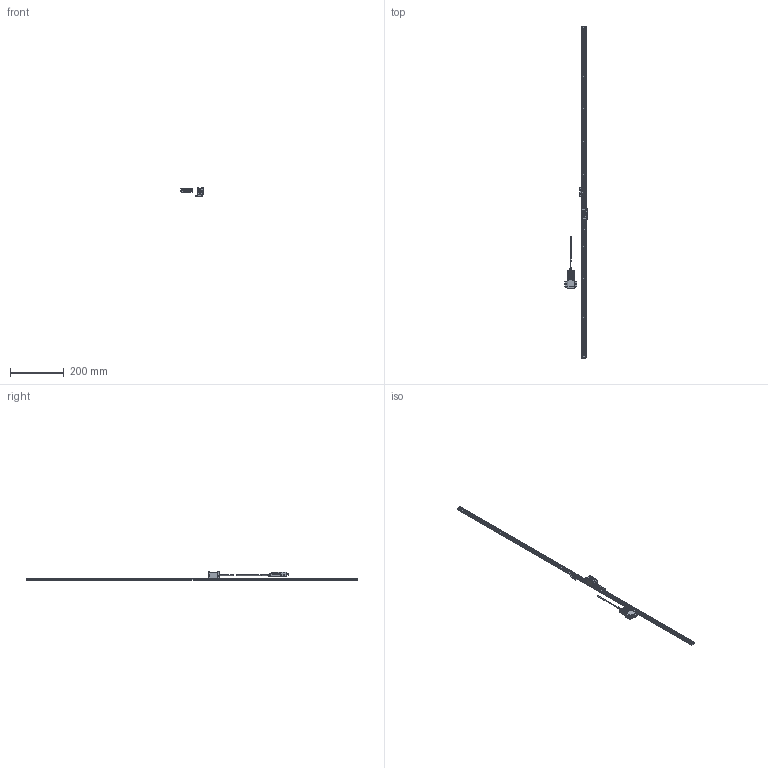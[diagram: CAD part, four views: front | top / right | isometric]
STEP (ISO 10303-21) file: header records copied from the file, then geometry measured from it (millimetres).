
FILE_DESCRIPTION(('Creo Elements/Direct Modeling STEP Export'),'2;1');
FILE_NAME('ST1300-1200F_G.stp','2022-08-16T10:34:42',(''),(''),'Creo Elements/Direct Modeling STEP processor for AP214 (Solid Model)','Creo Elements/Direct Modeling 18.1I 13-Aug-2016 (C) Parametric Technology GmbH','');
FILE_SCHEMA(('AUTOMOTIVE_DESIGN { 1 0 10303 214 1 1 1 1 }'));
Length unit declared in the file: millimetre
Products named in the file (4): Detector_Head; Connector; Scale_1200; ST1300-1200F_G
Assembly tree (3 placements, depth 2):
  ST1300-1200F_G
    Scale_1200
    Connector
    Detector_Head
Bounding box: 83 x 1240 x 30.1 mm (x, y, z)
Volume: 121679.3 mm3; surface area: 75030.6 mm2
Topology: 2 solids, 6 shells, 3545 faces, 9750 edges, 6357 vertices
Faces by surface type: plane 1664, cylinder 1547, extrusion 194, cone 87, torus 26, bspline 23, revolution 4
Entity records: 118103 total; most frequent: CARTESIAN_POINT 27319, ORIENTED_EDGE 19484, DIRECTION 18263, EDGE_CURVE 9738, VERTEX_POINT 6357, AXIS2_PLACEMENT_3D 6141, VECTOR 5975, LINE 5815
